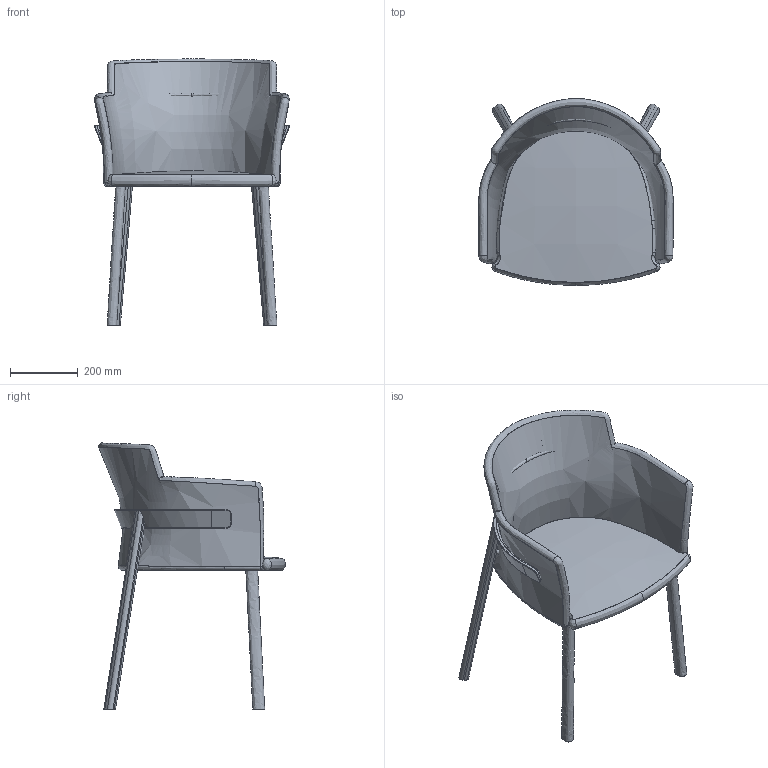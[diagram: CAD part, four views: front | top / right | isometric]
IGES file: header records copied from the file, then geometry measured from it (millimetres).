
Global section: file name: \\192.168.4.99\ufficio_tecnico\3d per sito\pince\pince.igs; native system: Rhinoceros ( Aug 10 2015 ); preprocessor: Trout Lake IGES 012 Aug 10 2015; date: 170609.080607; units: millimetre
Bounding box: 576.03 x 550.77 x 784.36 mm (x, y, z)
Surface area: 1798762.2 mm2 (no closed solid volume)
Topology: 0 solids, 0 shells, 221 faces, 2131 edges, 2070 vertices
Faces by surface type: bspline 221
